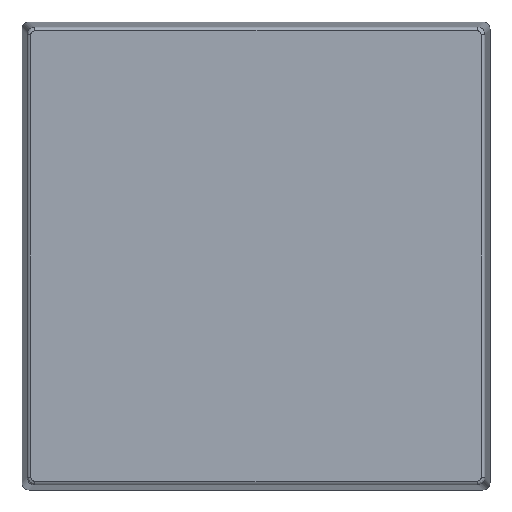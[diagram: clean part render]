
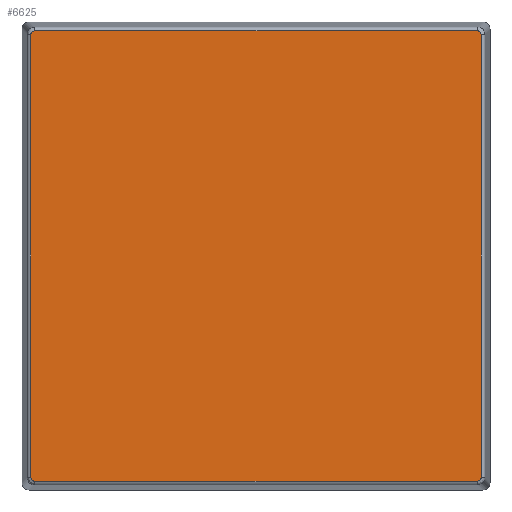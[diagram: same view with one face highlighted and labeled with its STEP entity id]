
A CAD part, front view. The second image highlights one B-rep face of the part: STEP entity #6625.
In plain terms, the highlighted planar face has unit normal (0, -1, 0) as drawn and (0, 0, -1) by its records, which use the part's own axes.
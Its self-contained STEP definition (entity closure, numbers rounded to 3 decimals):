
#97=ELLIPSE('',#7037,1.001,1.);
#98=ELLIPSE('',#7040,1.001,1.);
#100=ELLIPSE('',#7045,1.001,1.);
#102=ELLIPSE('',#7049,1.001,1.);
#921=FACE_OUTER_BOUND('',#1342,.T.);
#1342=EDGE_LOOP('',(#5563,#5564,#5565,#5566,#5567,#5568,#5569,#5570));
#1926=LINE('',#11080,#2516);
#1933=LINE('',#11156,#2523);
#1938=LINE('',#11227,#2528);
#1940=LINE('',#11230,#2530);
#2516=VECTOR('',#8264,118.077);
#2523=VECTOR('',#8297,118.077);
#2528=VECTOR('',#8322,118.077);
#2530=VECTOR('',#8326,118.077);
#3085=VERTEX_POINT('',#11077);
#3086=VERTEX_POINT('',#11079);
#3089=VERTEX_POINT('',#11118);
#3091=VERTEX_POINT('',#11122);
#3092=VERTEX_POINT('',#11152);
#3094=VERTEX_POINT('',#11183);
#3096=VERTEX_POINT('',#11187);
#3098=VERTEX_POINT('',#11219);
#3926=EDGE_CURVE('',#3085,#3086,#1926,.T.);
#3937=EDGE_CURVE('',#3091,#3089,#97,.T.);
#3940=EDGE_CURVE('',#3092,#3085,#98,.T.);
#3941=EDGE_CURVE('',#3089,#3092,#1933,.T.);
#3945=EDGE_CURVE('',#3096,#3094,#100,.T.);
#3950=EDGE_CURVE('',#3086,#3098,#102,.T.);
#3953=EDGE_CURVE('',#3098,#3096,#1938,.T.);
#3955=EDGE_CURVE('',#3094,#3091,#1940,.T.);
#5563=ORIENTED_EDGE('',*,*,#3941,.F.);
#5564=ORIENTED_EDGE('',*,*,#3937,.F.);
#5565=ORIENTED_EDGE('',*,*,#3955,.F.);
#5566=ORIENTED_EDGE('',*,*,#3945,.F.);
#5567=ORIENTED_EDGE('',*,*,#3953,.F.);
#5568=ORIENTED_EDGE('',*,*,#3950,.F.);
#5569=ORIENTED_EDGE('',*,*,#3926,.F.);
#5570=ORIENTED_EDGE('',*,*,#3940,.F.);
#6310=PLANE('',#7053);
#6625=ADVANCED_FACE('',(#921),#6310,.F.);
#7037=AXIS2_PLACEMENT_3D('',#11124,#8286,#8287);
#7040=AXIS2_PLACEMENT_3D('',#11154,#8293,#8294);
#7045=AXIS2_PLACEMENT_3D('',#11189,#8304,#8305);
#7049=AXIS2_PLACEMENT_3D('',#11222,#8314,#8315);
#7053=AXIS2_PLACEMENT_3D('',#11231,#8327,#8328);
#8264=DIRECTION('',(0.,-1.,0.));
#8286=DIRECTION('center_axis',(0.,0.,1.));
#8287=DIRECTION('ref_axis',(0.707,0.707,0.));
#8293=DIRECTION('center_axis',(0.,0.,1.));
#8294=DIRECTION('ref_axis',(-0.707,0.707,0.));
#8297=DIRECTION('',(-1.,0.,0.));
#8304=DIRECTION('center_axis',(0.,0.,1.));
#8305=DIRECTION('ref_axis',(0.707,-0.707,0.));
#8314=DIRECTION('center_axis',(0.,0.,1.));
#8315=DIRECTION('ref_axis',(-0.707,-0.707,0.));
#8322=DIRECTION('',(1.,0.,0.));
#8326=DIRECTION('',(0.,1.,0.));
#8327=DIRECTION('center_axis',(0.,0.,1.));
#8328=DIRECTION('ref_axis',(1.,0.,0.));
#11077=CARTESIAN_POINT('',(-60.038,59.038,-53.));
#11079=CARTESIAN_POINT('',(-60.038,-59.038,-53.));
#11080=CARTESIAN_POINT('',(-60.038,31.2,-53.));
#11118=CARTESIAN_POINT('',(59.038,60.038,-53.));
#11122=CARTESIAN_POINT('',(60.038,59.038,-53.));
#11124=CARTESIAN_POINT('Origin',(59.038,59.038,-53.));
#11152=CARTESIAN_POINT('',(-59.038,60.038,-53.));
#11154=CARTESIAN_POINT('Origin',(-59.038,59.038,-53.));
#11156=CARTESIAN_POINT('',(31.2,60.038,-53.));
#11183=CARTESIAN_POINT('',(60.038,-59.038,-53.));
#11187=CARTESIAN_POINT('',(59.038,-60.038,-53.));
#11189=CARTESIAN_POINT('Origin',(59.038,-59.038,-53.));
#11219=CARTESIAN_POINT('',(-59.038,-60.038,-53.));
#11222=CARTESIAN_POINT('Origin',(-59.038,-59.038,-53.));
#11227=CARTESIAN_POINT('',(-31.2,-60.038,-53.));
#11230=CARTESIAN_POINT('',(60.038,-31.2,-53.));
#11231=CARTESIAN_POINT('Origin',(0.,0.,
-53.));
